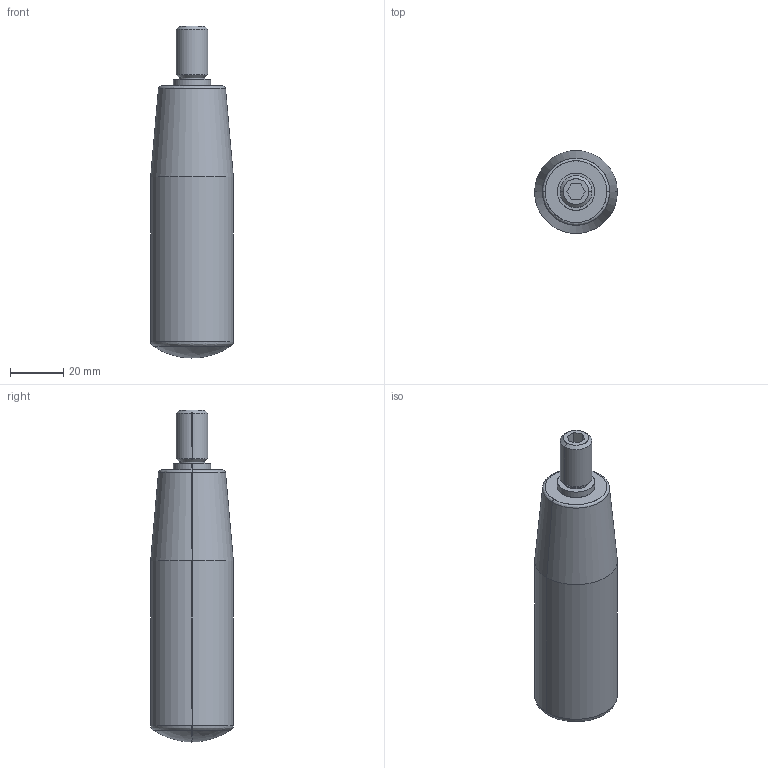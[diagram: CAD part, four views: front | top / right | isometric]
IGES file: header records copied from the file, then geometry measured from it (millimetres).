
Start section: SolidWorks IGES file using analytic representation for surfaces
Global section: file name: C:\HEMSIDA\cad\SLDPRT_2010\gn598\\gn598_102_m12.igs; native system: SolidWorks 2010; preprocessor: SolidWorks 2010; author: Administrator; date: 101001.151953; units: millimetre
Bounding box: 31 x 31 x 124.5 mm (x, y, z)
Surface area: 11421 mm2 (no closed solid volume)
Topology: 0 solids, 0 shells, 30 faces, 276 edges, 274 vertices
Faces by surface type: bspline 16, revolution 14
